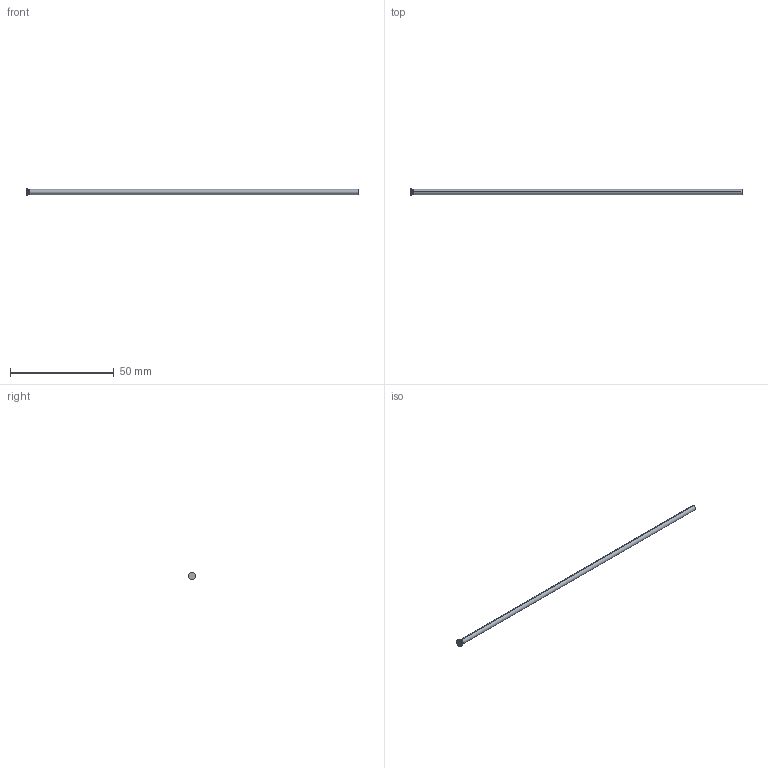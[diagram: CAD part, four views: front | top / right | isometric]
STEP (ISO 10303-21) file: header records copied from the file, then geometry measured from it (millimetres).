
FILE_DESCRIPTION (( 'STEP AP214' ), '1' );
FILE_NAME ('D-2,5x160.STEP', '2020-06-08T10:06:42', ( 'August' ), ( '' ), 'SwSTEP 2.0', 'SolidWorks 2018', '' );
FILE_SCHEMA (( 'AUTOMOTIVE_DESIGN' ));
Length unit declared in the file: millimetre
Products named in the file (1): D-2,5x160
Bounding box: 160 x 3.5 x 3.5 mm (x, y, z)
Volume: 789.7 mm3; surface area: 1275.3 mm2
Topology: 1 solids, 1 shells, 10 faces, 18 edges, 10 vertices
Faces by surface type: cylinder 4, torus 2, cone 2, plane 2
Entity records: 280 total; most frequent: DIRECTION 52, CARTESIAN_POINT 39, ORIENTED_EDGE 36, AXIS2_PLACEMENT_3D 23, EDGE_CURVE 18, CIRCLE 12, ADVANCED_FACE 10, VERTEX_POINT 10
